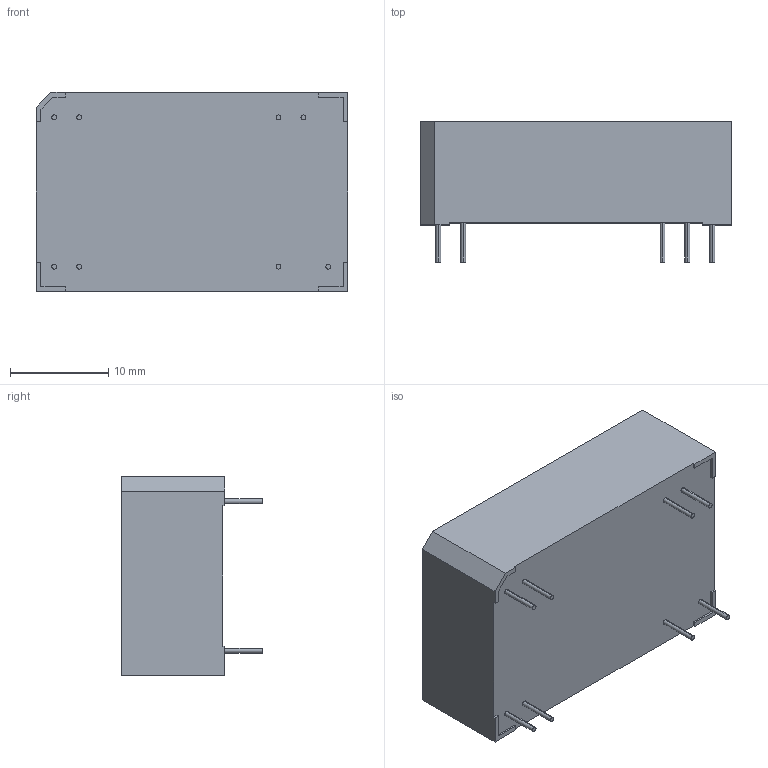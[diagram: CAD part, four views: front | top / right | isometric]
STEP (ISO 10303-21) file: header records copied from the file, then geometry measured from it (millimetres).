
FILE_DESCRIPTION (( 'STEP AP203' ), '1' );
FILE_NAME ('THI 3 Dual Output.STEP', '2020-11-13T07:11:55', ( '' ), ( '' ), 'SwSTEP 2.0', 'SolidWorks 2020', '' );
FILE_SCHEMA (( 'CONFIG_CONTROL_DESIGN' ));
Length unit declared in the file: millimetre
Products named in the file (1): THI 3 Dual Output
Bounding box: 31.8 x 14.3 x 20.3 mm (x, y, z)
Volume: 6645.9 mm3; surface area: 2412.6 mm2
Topology: 1 solids, 1 shells, 52 faces, 126 edges, 84 vertices
Faces by surface type: plane 36, cylinder 16
Entity records: 1599 total; most frequent: DIRECTION 264, CARTESIAN_POINT 263, ORIENTED_EDGE 252, EDGE_CURVE 126, LINE 94, VECTOR 94, AXIS2_PLACEMENT_3D 85, VERTEX_POINT 84
